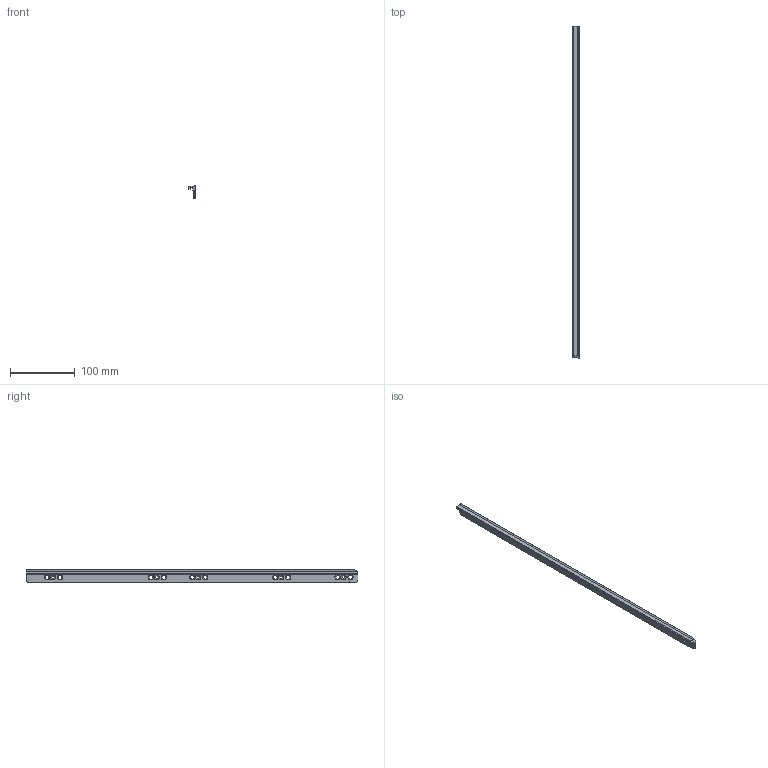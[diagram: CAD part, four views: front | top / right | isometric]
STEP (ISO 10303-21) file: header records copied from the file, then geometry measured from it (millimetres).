
FILE_DESCRIPTION (( 'STEP AP214' ), '1' );
FILE_NAME ('Zahnstange-rechts_NL500_K760018100.step', '2010-09-22T07:56:42', ( 'grass' ), ( '' ), 'SwSTEP 2.0', 'SolidWorks 2010', '' );
FILE_SCHEMA (( 'AUTOMOTIVE_DESIGN' ));
Length unit declared in the file: millimetre
Products named in the file (1): Zahnstange-rechts_NL500_K760018100
Bounding box: 9.5 x 512 x 20 mm (x, y, z)
Volume: 31598.4 mm3; surface area: 30856.9 mm2
Topology: 1 solids, 1 shells, 100 faces, 248 edges, 149 vertices
Faces by surface type: cylinder 54, cone 30, plane 16
Entity records: 3049 total; most frequent: DIRECTION 558, CARTESIAN_POINT 519, ORIENTED_EDGE 496, EDGE_CURVE 248, AXIS2_PLACEMENT_3D 216, VERTEX_POINT 149, EDGE_LOOP 129, VECTOR 126
